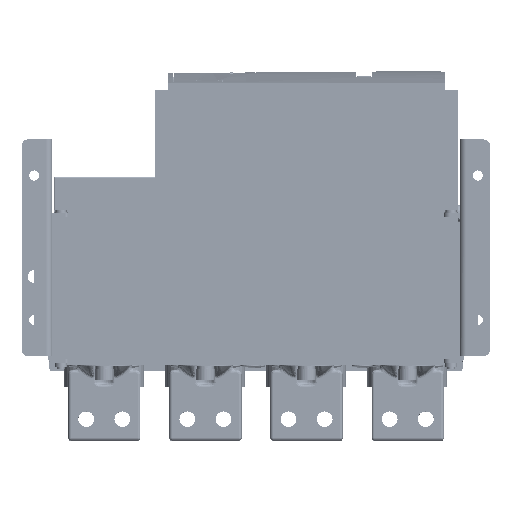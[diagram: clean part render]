
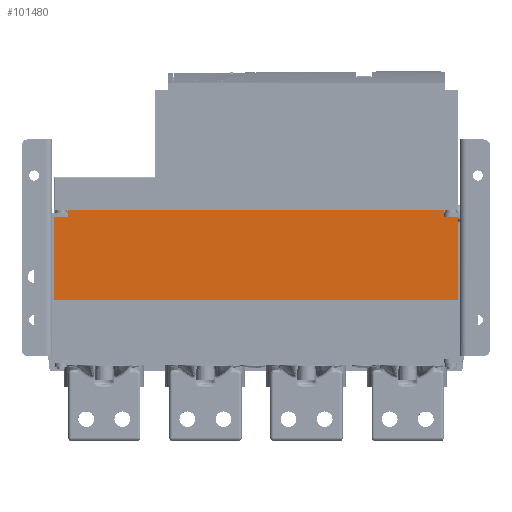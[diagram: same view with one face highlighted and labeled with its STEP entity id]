
A CAD part, top view. The second image highlights one B-rep face of the part: STEP entity #101480.
In plain terms, the highlighted planar face has unit normal (0, 0, 1).
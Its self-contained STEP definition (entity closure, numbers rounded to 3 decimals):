
#6878=FACE_OUTER_BOUND('',#12443,.T.);
#12443=EDGE_LOOP('',(#70081,#70082,#70083,#70084,#70085,#70086,#70087,#70088));
#21702=LINE('',#148617,#32314);
#21942=LINE('',#149164,#32554);
#22059=LINE('',#149424,#32671);
#22068=LINE('',#149442,#32680);
#22913=LINE('',#151342,#33525);
#22920=LINE('',#151355,#33532);
#22921=LINE('',#151357,#33533);
#22922=LINE('',#151358,#33534);
#32314=VECTOR('',#117760,280.);
#32554=VECTOR('',#118156,260.);
#32671=VECTOR('',#118321,10.);
#32680=VECTOR('',#118338,57.);
#33525=VECTOR('',#119999,10.);
#33532=VECTOR('',#120010,5.);
#33533=VECTOR('',#120013,57.);
#33534=VECTOR('',#120014,5.);
#42931=VERTEX_POINT('',#148614);
#42932=VERTEX_POINT('',#148616);
#43160=VERTEX_POINT('',#149161);
#43161=VERTEX_POINT('',#149163);
#43279=VERTEX_POINT('',#149421);
#43280=VERTEX_POINT('',#149423);
#43931=VERTEX_POINT('',#151339);
#43932=VERTEX_POINT('',#151341);
#52733=EDGE_CURVE('',#42932,#42931,#21702,.T.);
#53008=EDGE_CURVE('',#43160,#43161,#21942,.T.);
#53139=EDGE_CURVE('',#43279,#43280,#22059,.T.);
#53150=EDGE_CURVE('',#42932,#43279,#22068,.T.);
#54111=EDGE_CURVE('',#43931,#43932,#22913,.T.);
#54119=EDGE_CURVE('',#43161,#43931,#22920,.T.);
#54120=EDGE_CURVE('',#42931,#43932,#22921,.T.);
#54121=EDGE_CURVE('',#43160,#43280,#22922,.T.);
#70081=ORIENTED_EDGE('',*,*,#53139,.F.);
#70082=ORIENTED_EDGE('',*,*,#53150,.F.);
#70083=ORIENTED_EDGE('',*,*,#52733,.T.);
#70084=ORIENTED_EDGE('',*,*,#54120,.T.);
#70085=ORIENTED_EDGE('',*,*,#54111,.F.);
#70086=ORIENTED_EDGE('',*,*,#54119,.F.);
#70087=ORIENTED_EDGE('',*,*,#53008,.F.);
#70088=ORIENTED_EDGE('',*,*,#54121,.T.);
#97761=PLANE('',#108104);
#101480=ADVANCED_FACE('',(#6878),#97761,.T.);
#108104=AXIS2_PLACEMENT_3D('',#151356,#120011,#120012);
#117760=DIRECTION('',(1.,0.,0.));
#118156=DIRECTION('',(1.,0.,0.));
#118321=DIRECTION('',(1.,0.,0.));
#118338=DIRECTION('',(0.,1.,0.));
#119999=DIRECTION('',(1.,0.,0.));
#120010=DIRECTION('',(0.,-1.,0.));
#120011=DIRECTION('center_axis',(0.,0.,1.));
#120012=DIRECTION('ref_axis',(1.,0.,0.));
#120013=DIRECTION('',(0.,1.,0.));
#120014=DIRECTION('',(0.,-1.,0.));
#148614=CARTESIAN_POINT('',(105.,0.,113.));
#148616=CARTESIAN_POINT('',(-175.,0.,113.));
#148617=CARTESIAN_POINT('',(-175.,0.,113.));
#149161=CARTESIAN_POINT('',(-165.,62.,113.));
#149163=CARTESIAN_POINT('',(95.,62.,113.));
#149164=CARTESIAN_POINT('',(-165.,62.,113.));
#149421=CARTESIAN_POINT('',(-175.,57.,113.));
#149423=CARTESIAN_POINT('',(-165.,57.,113.));
#149424=CARTESIAN_POINT('',(-175.,57.,113.));
#149442=CARTESIAN_POINT('',(-175.,0.,113.));
#151339=CARTESIAN_POINT('',(95.,57.,113.));
#151341=CARTESIAN_POINT('',(105.,57.,113.));
#151342=CARTESIAN_POINT('',(95.,57.,113.));
#151355=CARTESIAN_POINT('',(95.,62.,113.));
#151356=CARTESIAN_POINT('Origin',(-175.,0.,113.));
#151357=CARTESIAN_POINT('',(105.,0.,113.));
#151358=CARTESIAN_POINT('',(-165.,62.,113.));
